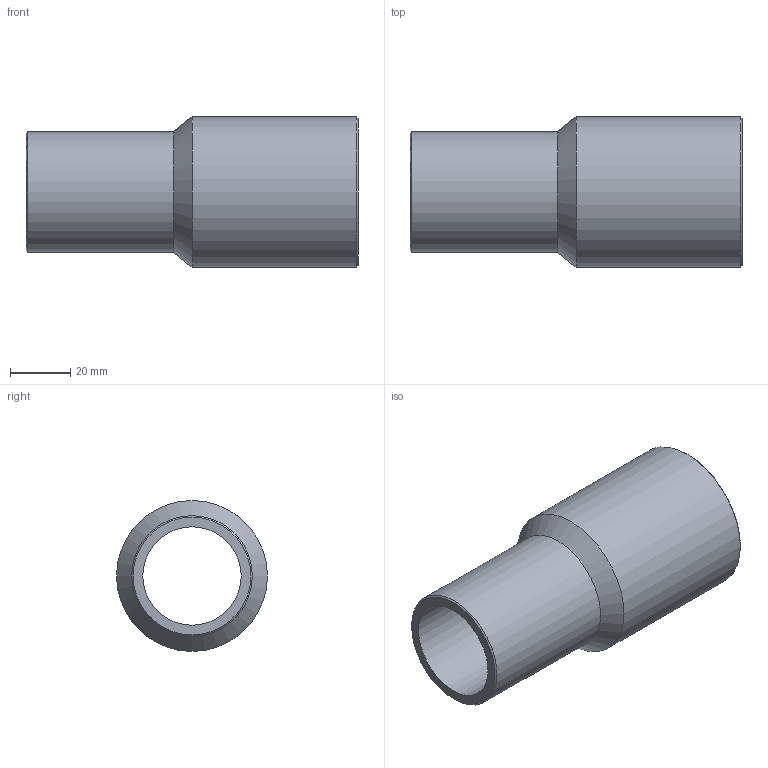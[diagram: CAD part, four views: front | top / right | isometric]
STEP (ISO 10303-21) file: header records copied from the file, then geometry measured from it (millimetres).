
FILE_DESCRIPTION(/* description */ ('Unknown'),/* implementation_level */ '2;1');
FILE_NAME(/* name */ 'RP050040C',/* time_stamp */ '2021-09-17T14:58:14+02:00',/* author */ ('Unknown'),/* organization */ ('Unknown'),/* preprocessor_version */ 'ST-DEVELOPER v16.7',/* originating_system */ 'Solid Edge',/* authorisation */ 'Unknown');
FILE_SCHEMA (('AUTOMOTIVE_DESIGN {1 0 10303 214 3 1 1}'));
Length unit declared in the file: millimetre
Products named in the file (1): RP050040C
Bounding box: 110 x 50 x 50 mm (x, y, z)
Volume: 61124.3 mm3; surface area: 29719.4 mm2
Topology: 1 solids, 1 shells, 10 faces, 19 edges, 11 vertices
Faces by surface type: cylinder 4, cone 4, plane 2
Full cylindrical faces by diameter (mm): 32.6 x1, 40 x1, 40.8 x1, 50 x1
Entity records: 238 total; most frequent: DIRECTION 42, CARTESIAN_POINT 31, AXIS2_PLACEMENT_3D 21, ORIENTED_EDGE 20, EDGE_LOOP 20, FACE_BOUND 20, EDGE_CURVE 10, VERTEX_POINT 10
